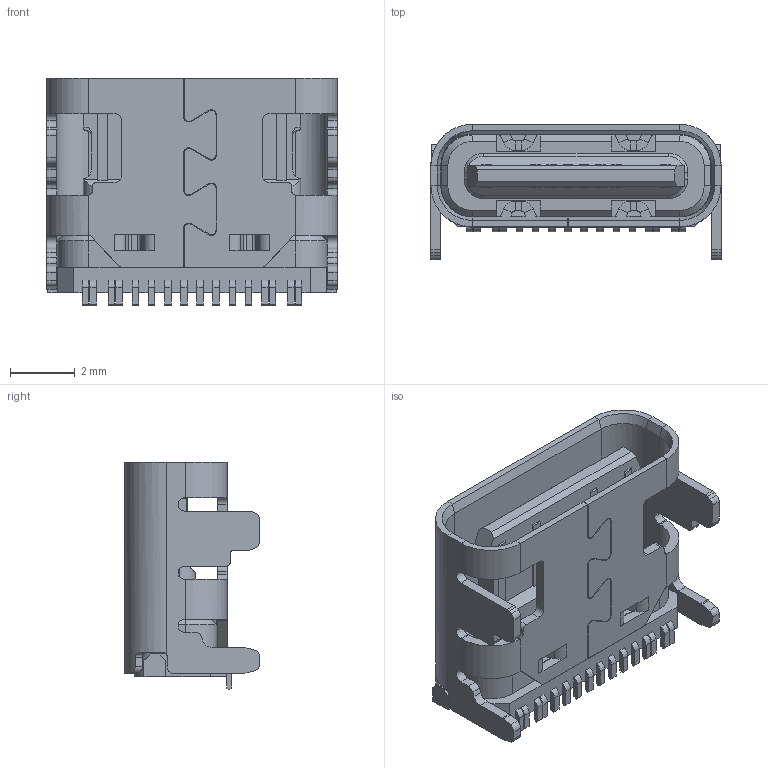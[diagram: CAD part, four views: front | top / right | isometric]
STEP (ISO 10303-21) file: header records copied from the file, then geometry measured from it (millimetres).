
FILE_DESCRIPTION((''),'2;1');
FILE_NAME('6_53D0001','2022-07-29T10:40:55',('asus'),(''),'CREO PARAMETRIC BY PTC INC, 2020053','CREO PARAMETRIC BY PTC INC, 2020053','');
FILE_SCHEMA(('AUTOMOTIVE_DESIGN { 1 0 10303 214 1 1 1 1 }'));
Length unit declared in the file: millimetre
Products named in the file (1): 6_53D0001
Bounding box: 8.94 x 4.16 x 7 mm (x, y, z)
Volume: 96.1 mm3; surface area: 428.1 mm2
Topology: 1 solids, 1 shells, 700 faces, 1929 edges, 1212 vertices
Faces by surface type: plane 506, cylinder 164, cone 18, bspline 12
Entity records: 27240 total; most frequent: CARTESIAN_POINT 4457, ORIENTED_EDGE 3858, DIRECTION 3597, EDGE_CURVE 1929, VECTOR 1521, LINE 1521, VERTEX_POINT 1212, AXIS2_PLACEMENT_3D 1038
